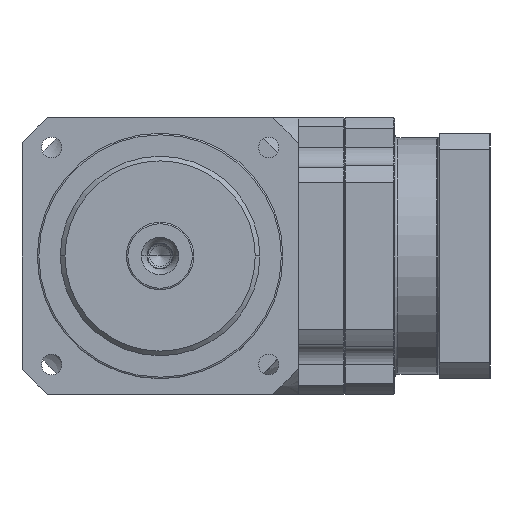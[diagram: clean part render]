
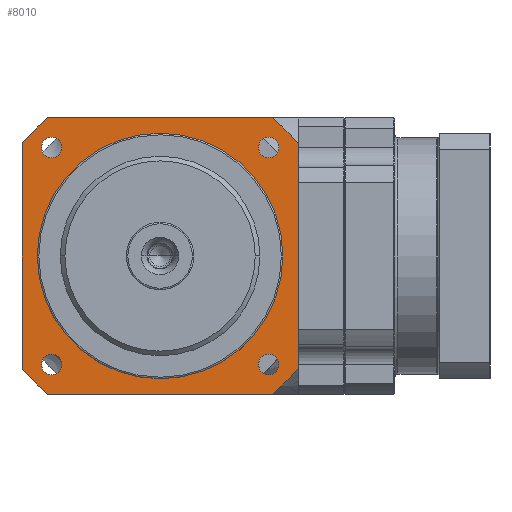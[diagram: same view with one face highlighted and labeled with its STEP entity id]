
A CAD part, left-side view. The second image highlights one B-rep face of the part: STEP entity #8010.
In plain terms, the highlighted planar face has unit normal (-1, 0, 0) as drawn and (0, 0, -1) by its records, which use the part's own axes.
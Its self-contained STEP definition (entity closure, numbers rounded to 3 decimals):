
#6984=CARTESIAN_POINT('',(35.355,-35.355,0.));
#6985=DIRECTION('',(0.,0.,1.));
#6986=DIRECTION('',(1.,0.,0.));
#6987=AXIS2_PLACEMENT_3D('',#6984,#6985,#6986);
#6989=CARTESIAN_POINT('',(35.355,-35.355,0.));
#6990=DIRECTION('',(0.,0.,1.));
#6991=DIRECTION('',(-1.,0.,0.));
#6992=AXIS2_PLACEMENT_3D('',#6989,#6990,#6991);
#6994=CARTESIAN_POINT('',(-35.355,-35.355,0.));
#6995=DIRECTION('',(0.,0.,1.));
#6996=DIRECTION('',(1.,0.,0.));
#6997=AXIS2_PLACEMENT_3D('',#6994,#6995,#6996);
#6999=CARTESIAN_POINT('',(-35.355,-35.355,0.));
#7000=DIRECTION('',(0.,0.,1.));
#7001=DIRECTION('',(-1.,0.,0.));
#7002=AXIS2_PLACEMENT_3D('',#6999,#7000,#7001);
#7004=CARTESIAN_POINT('',(-35.355,35.355,0.));
#7005=DIRECTION('',(0.,0.,1.));
#7006=DIRECTION('',(1.,0.,0.));
#7007=AXIS2_PLACEMENT_3D('',#7004,#7005,#7006);
#7009=CARTESIAN_POINT('',(-35.355,35.355,0.));
#7010=DIRECTION('',(0.,0.,1.));
#7011=DIRECTION('',(-1.,0.,0.));
#7012=AXIS2_PLACEMENT_3D('',#7009,#7010,#7011);
#7014=CARTESIAN_POINT('',(0.,0.,0.));
#7015=DIRECTION('',(0.,0.,1.));
#7016=DIRECTION('',(-0.776,-0.631,0.));
#7017=AXIS2_PLACEMENT_3D('',#7014,#7015,#7016);
#7019=DIRECTION('',(1.,0.,0.));
#7020=VECTOR('',#7019,73.185);
#7021=CARTESIAN_POINT('',(-36.592,-45.,0.));
#7022=LINE('',#7021,#7020);
#7023=CARTESIAN_POINT('',(0.,0.,0.));
#7024=DIRECTION('',(0.,0.,1.));
#7025=DIRECTION('',(0.631,-0.776,0.));
#7026=AXIS2_PLACEMENT_3D('',#7023,#7024,#7025);
#7028=DIRECTION('',(0.,1.,0.));
#7029=VECTOR('',#7028,73.185);
#7030=CARTESIAN_POINT('',(45.,-36.592,0.));
#7031=LINE('',#7030,#7029);
#7032=CARTESIAN_POINT('',(0.,0.,0.));
#7033=DIRECTION('',(0.,0.,1.));
#7034=DIRECTION('',(0.776,0.631,0.));
#7035=AXIS2_PLACEMENT_3D('',#7032,#7033,#7034);
#7037=DIRECTION('',(-1.,0.,0.));
#7038=VECTOR('',#7037,73.185);
#7039=CARTESIAN_POINT('',(36.592,45.,0.));
#7040=LINE('',#7039,#7038);
#7041=CARTESIAN_POINT('',(0.,0.,0.));
#7042=DIRECTION('',(0.,0.,1.));
#7043=DIRECTION('',(-0.631,0.776,0.));
#7044=AXIS2_PLACEMENT_3D('',#7041,#7042,#7043);
#7046=DIRECTION('',(0.,-1.,0.));
#7047=VECTOR('',#7046,73.185);
#7048=CARTESIAN_POINT('',(-45.,36.592,0.));
#7049=LINE('',#7048,#7047);
#7050=CARTESIAN_POINT('',(0.,0.,0.));
#7051=DIRECTION('',(0.,0.,1.));
#7052=DIRECTION('',(0.,-1.,0.));
#7053=AXIS2_PLACEMENT_3D('',#7050,#7051,#7052);
#7055=CARTESIAN_POINT('',(0.,0.,0.));
#7056=DIRECTION('',(0.,0.,1.));
#7057=DIRECTION('',(0.,1.,0.));
#7058=AXIS2_PLACEMENT_3D('',#7055,#7056,#7057);
#7060=CARTESIAN_POINT('',(35.355,35.355,0.));
#7061=DIRECTION('',(0.,0.,1.));
#7062=DIRECTION('',(1.,0.,0.));
#7063=AXIS2_PLACEMENT_3D('',#7060,#7061,#7062);
#7065=CARTESIAN_POINT('',(35.355,35.355,0.));
#7066=DIRECTION('',(0.,0.,1.));
#7067=DIRECTION('',(-1.,0.,0.));
#7068=AXIS2_PLACEMENT_3D('',#7065,#7066,#7067);
#7756=CARTESIAN_POINT('',(-45.,-36.592,0.));
#7757=CARTESIAN_POINT('',(-36.592,-45.,0.));
#7758=VERTEX_POINT('',#7756);
#7759=VERTEX_POINT('',#7757);
#7760=CARTESIAN_POINT('',(36.592,-45.,0.));
#7761=VERTEX_POINT('',#7760);
#7762=CARTESIAN_POINT('',(45.,-36.592,0.));
#7763=VERTEX_POINT('',#7762);
#7764=CARTESIAN_POINT('',(45.,36.592,0.));
#7765=VERTEX_POINT('',#7764);
#7766=CARTESIAN_POINT('',(36.592,45.,0.));
#7767=VERTEX_POINT('',#7766);
#7768=CARTESIAN_POINT('',(-36.592,45.,0.));
#7769=VERTEX_POINT('',#7768);
#7770=CARTESIAN_POINT('',(-45.,36.592,0.));
#7771=VERTEX_POINT('',#7770);
#7772=CARTESIAN_POINT('',(0.,-40.,0.));
#7773=CARTESIAN_POINT('',(0.,40.,0.));
#7774=VERTEX_POINT('',#7772);
#7775=VERTEX_POINT('',#7773);
#7888=CARTESIAN_POINT('',(38.655,35.355,0.));
#7889=CARTESIAN_POINT('',(32.055,35.355,0.));
#7890=VERTEX_POINT('',#7888);
#7891=VERTEX_POINT('',#7889);
#7896=CARTESIAN_POINT('',(-32.055,35.355,0.));
#7897=CARTESIAN_POINT('',(-38.655,35.355,0.));
#7898=VERTEX_POINT('',#7896);
#7899=VERTEX_POINT('',#7897);
#7904=CARTESIAN_POINT('',(-32.055,-35.355,0.));
#7905=CARTESIAN_POINT('',(-38.655,-35.355,0.));
#7906=VERTEX_POINT('',#7904);
#7907=VERTEX_POINT('',#7905);
#7912=CARTESIAN_POINT('',(38.655,-35.355,0.));
#7913=CARTESIAN_POINT('',(32.055,-35.355,0.));
#7914=VERTEX_POINT('',#7912);
#7915=VERTEX_POINT('',#7913);
#7958=CARTESIAN_POINT('',(0.,0.,0.));
#7959=DIRECTION('',(0.,0.,1.));
#7960=DIRECTION('',(0.,1.,0.));
#7961=AXIS2_PLACEMENT_3D('',#7958,#7959,#7960);
#7962=PLANE('',#7961);
#7964=ORIENTED_EDGE('',*,*,#7963,.T.);
#7966=ORIENTED_EDGE('',*,*,#7965,.T.);
#7968=ORIENTED_EDGE('',*,*,#7967,.T.);
#7970=ORIENTED_EDGE('',*,*,#7969,.T.);
#7972=ORIENTED_EDGE('',*,*,#7971,.T.);
#7974=ORIENTED_EDGE('',*,*,#7973,.T.);
#7976=ORIENTED_EDGE('',*,*,#7975,.T.);
#7978=ORIENTED_EDGE('',*,*,#7977,.T.);
#7979=EDGE_LOOP('',(#7964,#7966,#7968,#7970,#7972,#7974,#7976,#7978));
#7980=FACE_OUTER_BOUND('',#7979,.F.);
#7982=ORIENTED_EDGE('',*,*,#7981,.F.);
#7984=ORIENTED_EDGE('',*,*,#7983,.F.);
#7985=EDGE_LOOP('',(#7982,#7984));
#7986=FACE_BOUND('',#7985,.F.);
#7988=ORIENTED_EDGE('',*,*,#7987,.F.);
#7990=ORIENTED_EDGE('',*,*,#7989,.F.);
#7991=EDGE_LOOP('',(#7988,#7990));
#7992=FACE_BOUND('',#7991,.F.);
#7994=ORIENTED_EDGE('',*,*,#7993,.F.);
#7996=ORIENTED_EDGE('',*,*,#7995,.F.);
#7997=EDGE_LOOP('',(#7994,#7996));
#7998=FACE_BOUND('',#7997,.F.);
#7999=ORIENTED_EDGE('',*,*,#7947,.F.);
#8001=ORIENTED_EDGE('',*,*,#8000,.F.);
#8002=EDGE_LOOP('',(#7999,#8001));
#8003=FACE_BOUND('',#8002,.F.);
#8005=ORIENTED_EDGE('',*,*,#8004,.F.);
#8007=ORIENTED_EDGE('',*,*,#8006,.F.);
#8008=EDGE_LOOP('',(#8005,#8007));
#8009=FACE_BOUND('',#8008,.F.);
#8010=ADVANCED_FACE('',(#7980,#7986,#7992,#7998,#8003,#8009),#7962,.F.);
#6988=CIRCLE('',#6987,3.3);
#6993=CIRCLE('',#6992,3.3);
#6998=CIRCLE('',#6997,3.3);
#7003=CIRCLE('',#7002,3.3);
#7008=CIRCLE('',#7007,3.3);
#7013=CIRCLE('',#7012,3.3);
#7018=CIRCLE('',#7017,58.);
#7027=CIRCLE('',#7026,58.);
#7036=CIRCLE('',#7035,58.);
#7045=CIRCLE('',#7044,58.);
#7054=CIRCLE('',#7053,40.);
#7059=CIRCLE('',#7058,40.);
#7064=CIRCLE('',#7063,3.3);
#7069=CIRCLE('',#7068,3.3);
#7947=EDGE_CURVE('',#7774,#7775,#7054,.T.);
#7963=EDGE_CURVE('',#7758,#7759,#7018,.T.);
#7965=EDGE_CURVE('',#7759,#7761,#7022,.T.);
#7967=EDGE_CURVE('',#7761,#7763,#7027,.T.);
#7969=EDGE_CURVE('',#7763,#7765,#7031,.T.);
#7971=EDGE_CURVE('',#7765,#7767,#7036,.T.);
#7973=EDGE_CURVE('',#7767,#7769,#7040,.T.);
#7975=EDGE_CURVE('',#7769,#7771,#7045,.T.);
#7977=EDGE_CURVE('',#7771,#7758,#7049,.T.);
#7981=EDGE_CURVE('',#7906,#7907,#6998,.T.);
#7983=EDGE_CURVE('',#7907,#7906,#7003,.T.);
#7987=EDGE_CURVE('',#7898,#7899,#7008,.T.);
#7989=EDGE_CURVE('',#7899,#7898,#7013,.T.);
#7993=EDGE_CURVE('',#7914,#7915,#6988,.T.);
#7995=EDGE_CURVE('',#7915,#7914,#6993,.T.);
#8000=EDGE_CURVE('',#7775,#7774,#7059,.T.);
#8004=EDGE_CURVE('',#7890,#7891,#7064,.T.);
#8006=EDGE_CURVE('',#7891,#7890,#7069,.T.);
